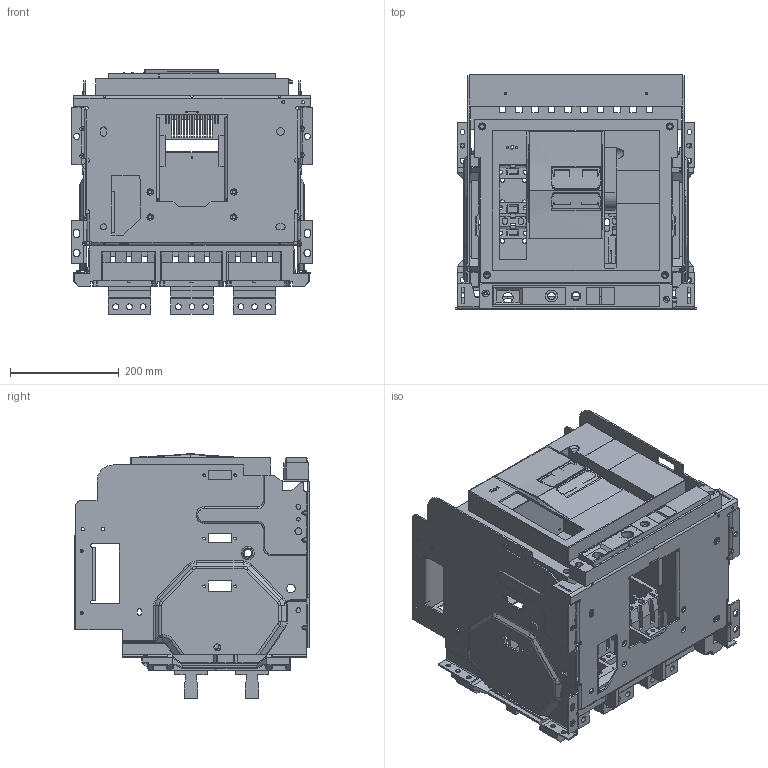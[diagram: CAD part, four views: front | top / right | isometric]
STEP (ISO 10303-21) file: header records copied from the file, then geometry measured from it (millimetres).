
FILE_DESCRIPTION((''),'2;1');
FILE_NAME('NA8G-3200-DO-2500-3P_ASM','2020-05-13T08:38:29',('lcc'),(''),'CREO PARAMETRIC BY PTC INC, 2018020','CREO PARAMETRIC BY PTC INC, 2018020','');
FILE_SCHEMA(('CONFIG_CONTROL_DESIGN','SHAPE_APPEARANCE_LAYERS_GROUPS'));
Products named in the file (10): 8-055-091; 8-050-238; 8-050-239; 8-300-168; 8-300-151; SHIZ45FFX1IS; DW45-3200-DIJIA-3P_ASM; 8-060-145-2; 8ZTD-580-288; NA8G-3200-DO-2500-3P_ASM
Assembly tree (14 placements, depth 3):
  NA8G-3200-DO-2500-3P_ASM
    8-055-091
    8-050-238
    8-050-239
    8-300-168
    8-300-151
    DW45-3200-DIJIA-3P_ASM
      SHIZ45FFX1IS
    8-060-145-2
    8ZTD-580-288  x6
Bounding box: 443 x 431 x 450 mm (x, y, z)
Volume: 5303409.3 mm3; surface area: 2570993 mm2
Topology: 13 solids, 26 shells, 3878 faces, 10738 edges, 6642 vertices
Faces by surface type: plane 1991, cylinder 1429, sphere 170, bspline 111, torus 102, cone 75
Entity records: 155581 total; most frequent: CARTESIAN_POINT 29615, ORIENTED_EDGE 20269, DIRECTION 19320, EDGE_CURVE 10170, PRESENTATION_STYLE_ASSIGNMENT 10113, STYLED_ITEM 10112, CURVE_STYLE 10092, VECTOR 6972
